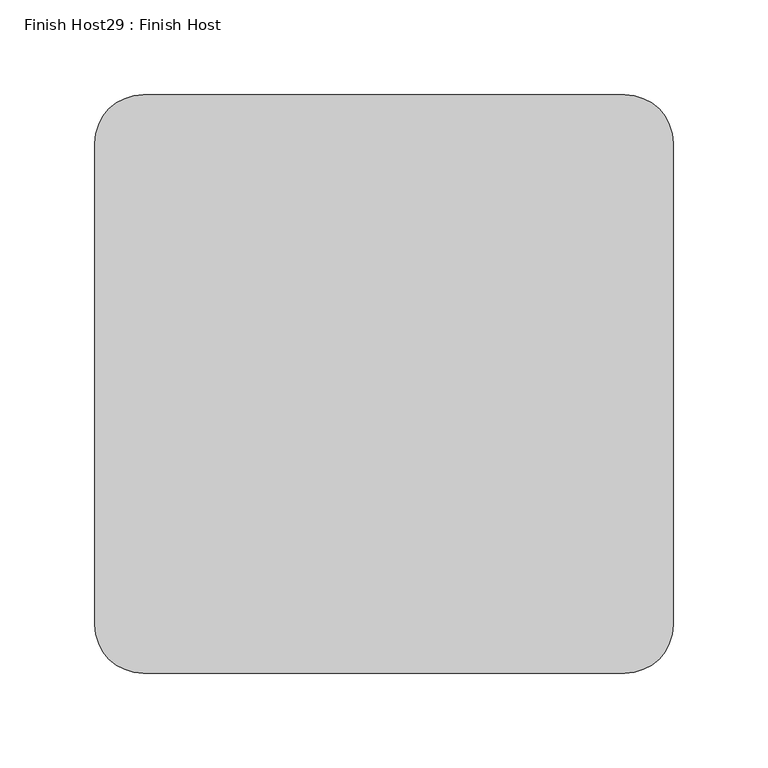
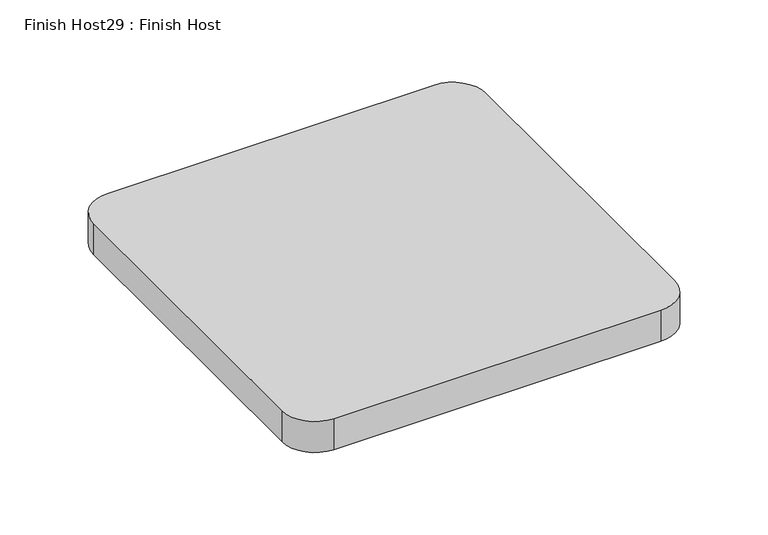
"""IFC4 building model written with IfcOpenShell, lengths in millimetres: proxy geometry, Finish Host29 : Finish Host."""

from ifc_helpers import new_model, si_unit, point, frame_2d, origin, origin_with_axes, place, context, project, spatial, polyline, circle_curve, trimmed, segment, composite_curve, outline, extrude, source, transform, mapped, element, save


def finish_host29_finish_host_c5cb782f(model_context):
    return source(origin(), model_context, "Body", "SweptSolid", [
        extrude(outline(composite_curve([segment(polyline([(6397.1649374, 3242.5667263), (6397.1649374, 3496.5667263)]), True, "CONTINUOUS"), segment(trimmed(circle_curve(frame_2d((6422.5649374, 3496.5667263)), 25.4), [point((6397.1649374, 3496.5667263))], [point((6422.5649374, 3521.9667263))], False, "CARTESIAN"), True, "CONTINUOUS"), segment(polyline([(6422.5649374, 3521.9667263), (6676.5649374, 3521.9667263)]), True, "CONTINUOUS"), segment(trimmed(circle_curve(frame_2d((6676.5649374, 3496.5667263)), 25.4), [point((6676.5649374, 3521.9667263))], [point((6701.9649374, 3496.5667263))], False, "CARTESIAN"), True, "CONTINUOUS"), segment(polyline([(6701.9649374, 3496.5667263), (6701.9649374, 3242.5667263)]), True, "CONTINUOUS"), segment(trimmed(circle_curve(frame_2d((6676.5649374, 3242.5667263)), 25.4), [point((6701.9649374, 3242.5667263))], [point((6676.5649374, 3217.1667263))], False, "CARTESIAN"), True, "CONTINUOUS"), segment(polyline([(6676.5649374, 3217.1667263), (6422.5649374, 3217.1667263)]), True, "CONTINUOUS"), segment(trimmed(circle_curve(frame_2d((6422.5649374, 3242.5667263)), 25.4), [point((6422.5649374, 3217.1667263))], [point((6397.1649374, 3242.5667263))], False, "CARTESIAN"), True, "CONTINUOUS")], self_intersect=False)), origin_with_axes(), (0.0, 0.0, 1.0), 25.4),
    ])


if __name__ == "__main__":
    model = new_model("IFC4")
    model_context = context("Model", 3, world=origin())
    ifc_project = project(units=[si_unit("LENGTHUNIT", "METRE", prefix="MILLI")], contexts=[model_context])
    site = spatial("IfcSite", under=ifc_project)
    building = spatial("IfcBuilding", under=site)
    placement = place(None, origin())
    finish_host29_finish_host_shape = finish_host29_finish_host_c5cb782f(model_context)
    element("IfcBuildingElementProxy", 1, Name="Finish Host29 : Finish Host", ObjectType="Finish Host29 : Finish Host", at=placement, inside=building, context=model_context, shape_type="MappedRepresentation", body=[
        mapped(finish_host29_finish_host_shape, transform((0.0, 0.0, 0.0), x_axis=(1.0, 0.0, 0.0), y_axis=(0.0, 1.0, 0.0), z_axis=(0.0, 0.0, 1.0))),
    ])
    save(model, "model.ifc")
